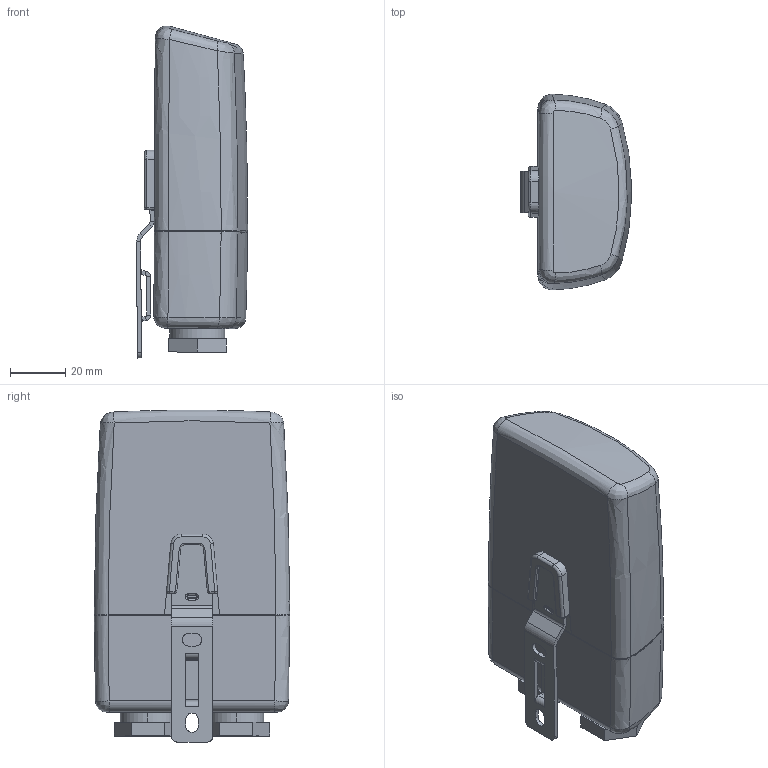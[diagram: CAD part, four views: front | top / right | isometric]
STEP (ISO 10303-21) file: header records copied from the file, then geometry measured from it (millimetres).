
FILE_DESCRIPTION(('CATIA V5 STEP Exchange'),'2;1');
FILE_NAME('C:\Users\itrimer\Desktop\TL1 POLE.stp','2019-12-09T07:47:47+00:00',('none'),('none'),'CATIA Version 5 Release 20 SP 6 (IN-10)','CATIA V5 STEP AP214','none');
FILE_SCHEMA(('AUTOMOTIVE_DESIGN { 1 0 10303 214 1 1 1 1 }'));
Products named in the file (10): 2CSP200009A1001_000_A0_TI POLE FD COMPLETO_2PD; 2CSP200007A1001_000_A0_ASSIEME CALOTTA T1 POLE FD_2PD; 04235821-------_000_E0_COPRI_MORSETTI_TW-PALO_2PA; 04235831-----_000_D0_CALOTTA SEMITRASPARENTE OPALINO TWP_2EG00601_2EA; 2CSP200005A1001_000_A0_ASSIEME BASE T1 POLE E LSD FD_2PD; 04235826-----_000_C0_BASE TWP_2EG00584_2EA; 04235836-----_000_C1_VITE DI FISSAGGIO_2EG00632_2EA; 04235856-----_000_B0_PRESSACAVO_2EG00491_2EA; 04235857-----_000_B0_GUARNIZIONE AD ANELLO_2EG00491_2EA; 04024278-----_000_C0_BARRA DI ANCORAGGIO PALO_2EG00601_2EA
Assembly tree (10 placements, depth 3):
  2CSP200009A1001_000_A0_TI POLE FD COMPLETO_2PD
    2CSP200007A1001_000_A0_ASSIEME CALOTTA T1 POLE FD_2PD
      04235821-------_000_E0_COPRI_MORSETTI_TW-PALO_2PA
      04235831-----_000_D0_CALOTTA SEMITRASPARENTE OPALINO TWP_2EG00601_2EA
    2CSP200005A1001_000_A0_ASSIEME BASE T1 POLE E LSD FD_2PD
      04235826-----_000_C0_BASE TWP_2EG00584_2EA
      04235836-----_000_C1_VITE DI FISSAGGIO_2EG00632_2EA
      04235856-----_000_B0_PRESSACAVO_2EG00491_2EA  x2
      04235857-----_000_B0_GUARNIZIONE AD ANELLO_2EG00491_2EA
    04024278-----_000_C0_BARRA DI ANCORAGGIO PALO_2EG00601_2EA
Bounding box: 40.23 x 70.8 x 120.2 mm (x, y, z)
Volume: 67732.9 mm3; surface area: 69604.9 mm2
Topology: 18 solids, 18 shells, 1178 faces, 2854 edges, 1713 vertices
Faces by surface type: cylinder 363, plane 326, bspline 323, torus 116, cone 32, sphere 16, extrusion 2
Entity records: 49883 total; most frequent: CARTESIAN_POINT 27074, ORIENTED_EDGE 5468, DIRECTION 3091, EDGE_CURVE 2734, VERTEX_POINT 1638, AXIS2_PLACEMENT_3D 1420, EDGE_LOOP 1176, ADVANCED_FACE 1130
